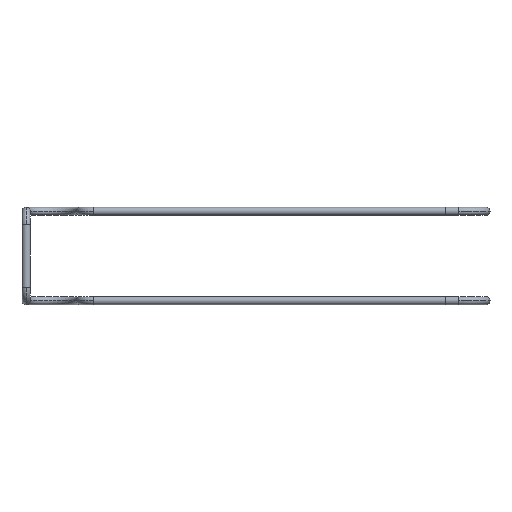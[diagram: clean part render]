
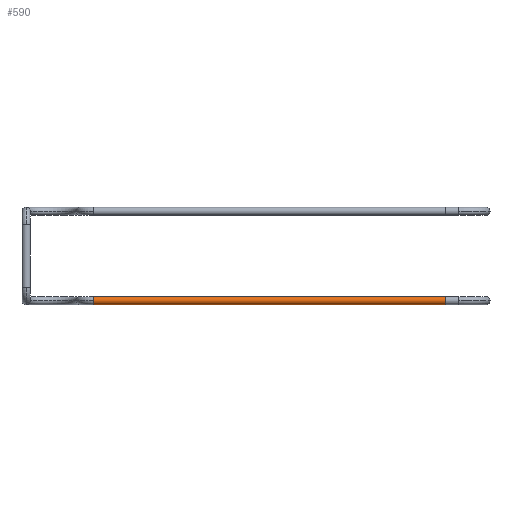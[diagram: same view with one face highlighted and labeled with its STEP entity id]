
A CAD part, front view. The second image highlights one B-rep face of the part: STEP entity #590.
In plain terms, the highlighted cylindrical face has radius 3 mm (diameter 6 mm), a partial arc.
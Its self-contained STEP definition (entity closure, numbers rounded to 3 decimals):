
#30 = CIRCLE ( 'NONE', #456, 3. ) ;
#37 = CARTESIAN_POINT ( 'NONE',  ( 50., 0., -63. ) ) ;
#44 = DIRECTION ( 'NONE',  ( 1., 0., 0. ) ) ;
#47 = EDGE_LOOP ( 'NONE', ( #378, #597, #630, #761, #914, #261 ) ) ;
#120 = CARTESIAN_POINT ( 'NONE',  ( 50., 0., -69. ) ) ;
#145 = CARTESIAN_POINT ( 'NONE',  ( 50., 0., -66. ) ) ;
#158 = CARTESIAN_POINT ( 'NONE',  ( 50., -3., -66. ) ) ;
#161 = DIRECTION ( 'NONE',  ( 1., 0., 0. ) ) ;
#163 = DIRECTION ( 'NONE',  ( 1., 0., 0. ) ) ;
#208 = DIRECTION ( 'NONE',  ( 1., 0., 0. ) ) ;
#261 = ORIENTED_EDGE ( 'NONE', *, *, #1170, .F. ) ;
#264 = CARTESIAN_POINT ( 'NONE',  ( 50., 0., -69. ) ) ;
#277 = AXIS2_PLACEMENT_3D ( 'NONE', #1063, #473, #1270 ) ;
#319 = CARTESIAN_POINT ( 'NONE',  ( 320., -3., -66. ) ) ;
#339 = DIRECTION ( 'NONE',  ( 0., 0., 1. ) ) ;
#363 = VERTEX_POINT ( 'NONE', #616 ) ;
#378 = ORIENTED_EDGE ( 'NONE', *, *, #859, .F. ) ;
#391 = CIRCLE ( 'NONE', #277, 3. ) ;
#395 = VERTEX_POINT ( 'NONE', #915 ) ;
#446 = AXIS2_PLACEMENT_3D ( 'NONE', #145, #161, #831 ) ;
#451 = CIRCLE ( 'NONE', #781, 3. ) ;
#456 = AXIS2_PLACEMENT_3D ( 'NONE', #872, #477, #572 ) ;
#473 = DIRECTION ( 'NONE',  ( 1., 0., 0. ) ) ;
#477 = DIRECTION ( 'NONE',  ( 1., 0., 0. ) ) ;
#479 = EDGE_CURVE ( 'NONE', #998, #600, #640, .T. ) ;
#502 = LINE ( 'NONE', #37, #665 ) ;
#541 = CARTESIAN_POINT ( 'NONE',  ( 320., 0., -66. ) ) ;
#572 = DIRECTION ( 'NONE',  ( 0., 0., 1. ) ) ;
#590 = ADVANCED_FACE ( 'NONE', ( #802 ), #861, .T. ) ;
#597 = ORIENTED_EDGE ( 'NONE', *, *, #714, .T. ) ;
#600 = VERTEX_POINT ( 'NONE', #264 ) ;
#609 = LINE ( 'NONE', #120, #1168 ) ;
#616 = CARTESIAN_POINT ( 'NONE',  ( 320., 0., -63. ) ) ;
#630 = ORIENTED_EDGE ( 'NONE', *, *, #479, .T. ) ;
#640 = CIRCLE ( 'NONE', #446, 3. ) ;
#665 = VECTOR ( 'NONE', #44, 1000. ) ;
#692 = CARTESIAN_POINT ( 'NONE',  ( 320., 0., -69. ) ) ;
#714 = EDGE_CURVE ( 'NONE', #395, #998, #30, .T. ) ;
#761 = ORIENTED_EDGE ( 'NONE', *, *, #828, .T. ) ;
#781 = AXIS2_PLACEMENT_3D ( 'NONE', #541, #826, #339 ) ;
#802 = FACE_OUTER_BOUND ( 'NONE', #47, .T. ) ;
#826 = DIRECTION ( 'NONE',  ( 1., 0., 0. ) ) ;
#828 = EDGE_CURVE ( 'NONE', #600, #1238, #609, .T. ) ;
#831 = DIRECTION ( 'NONE',  ( 0., 0., 1. ) ) ;
#857 = CARTESIAN_POINT ( 'NONE',  ( 50., 0., -66. ) ) ;
#859 = EDGE_CURVE ( 'NONE', #395, #363, #502, .T. ) ;
#861 = CYLINDRICAL_SURFACE ( 'NONE', #1218, 3. ) ;
#872 = CARTESIAN_POINT ( 'NONE',  ( 50., 0., -66. ) ) ;
#914 = ORIENTED_EDGE ( 'NONE', *, *, #965, .F. ) ;
#915 = CARTESIAN_POINT ( 'NONE',  ( 50., 0., -63. ) ) ;
#965 = EDGE_CURVE ( 'NONE', #1242, #1238, #451, .T. ) ;
#998 = VERTEX_POINT ( 'NONE', #158 ) ;
#1047 = DIRECTION ( 'NONE',  ( 0., 0., -1. ) ) ;
#1063 = CARTESIAN_POINT ( 'NONE',  ( 320., 0., -66. ) ) ;
#1168 = VECTOR ( 'NONE', #208, 1000. ) ;
#1170 = EDGE_CURVE ( 'NONE', #363, #1242, #391, .T. ) ;
#1218 = AXIS2_PLACEMENT_3D ( 'NONE', #857, #163, #1047 ) ;
#1238 = VERTEX_POINT ( 'NONE', #692 ) ;
#1242 = VERTEX_POINT ( 'NONE', #319 ) ;
#1270 = DIRECTION ( 'NONE',  ( 0., 0., 1. ) ) ;
